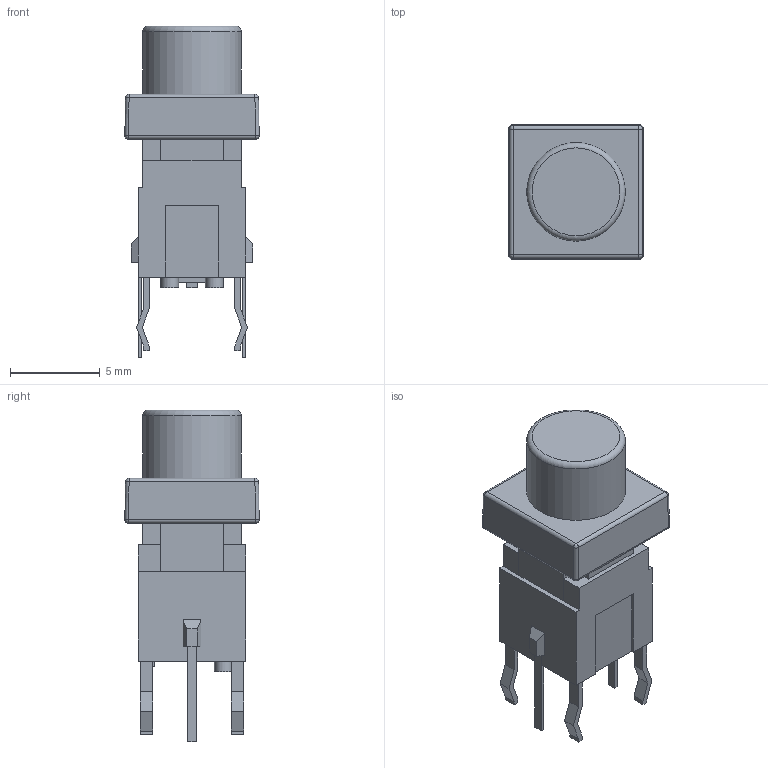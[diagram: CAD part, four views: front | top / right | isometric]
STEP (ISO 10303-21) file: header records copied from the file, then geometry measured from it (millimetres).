
FILE_DESCRIPTION(/* description */ (''),/* implementation_level */ '2;1');
FILE_NAME(/* name */ 'SW_LP_LED.step',/* time_stamp */ '2026-03-04T11:24:49Z',/* author */ (''),/* organization */ (''),/* preprocessor_version */ 'ST-DEVELOPER v20.1',/* originating_system */ 'Autodesk Translation Framework v14.24.0.0',/* authorisation */ '');
FILE_SCHEMA (('AUTOMOTIVE_DESIGN { 1 0 10303 214 3 1 1 }'));
Length unit declared in the file: millimetre
Products named in the file (5): Button TS5-2b; TS5_Base; TS5_Base_Inside; Cap; SW_LP_LED_OLD v1
Assembly tree (4 placements, depth 2):
  Button TS5-2b
    TS5_Base
    TS5_Base_Inside
    Cap
    SW_LP_LED_OLD v1
Bounding box: 7.49 x 7.49 x 18.5 mm (x, y, z)
Volume: 493.7 mm3; surface area: 836.7 mm2
Topology: 11 solids, 11 shells, 169 faces, 404 edges, 260 vertices
Faces by surface type: plane 145, cylinder 15, sphere 8, torus 1
Full cylindrical faces by diameter (mm): 1 x2, 5.5 x1
Entity records: 5015 total; most frequent: CARTESIAN_POINT 842, ORIENTED_EDGE 808, DIRECTION 793, EDGE_CURVE 404, LINE 371, VECTOR 371, VERTEX_POINT 260, AXIS2_PLACEMENT_3D 211
